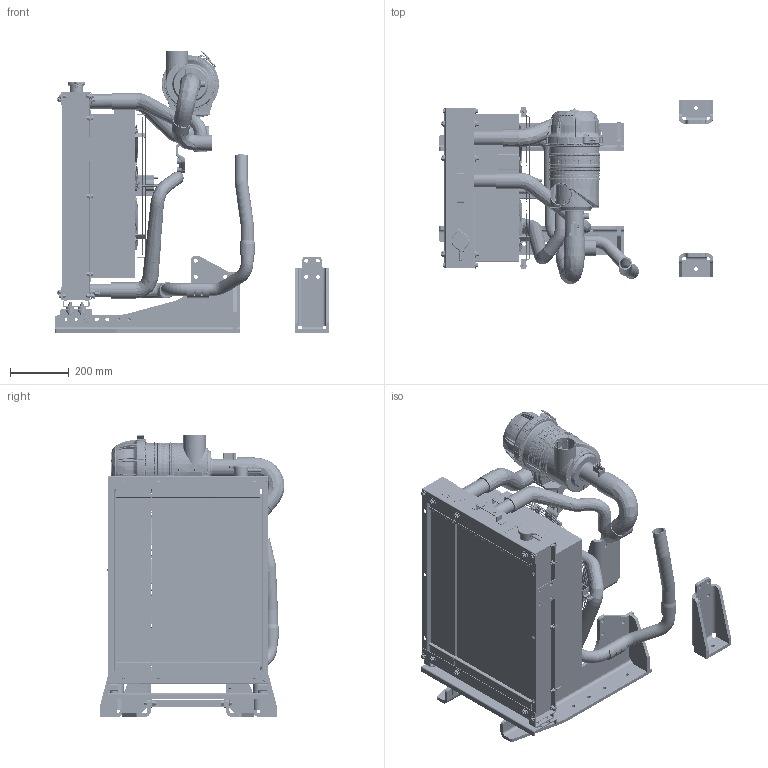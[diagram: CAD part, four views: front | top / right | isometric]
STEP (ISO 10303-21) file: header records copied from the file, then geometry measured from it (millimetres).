
FILE_DESCRIPTION(('CATIA V6 STEP'),'2;1');
FILE_NAME('C:\Users\i0213432\Desktop\STD 3D\D18\D18 Cooling pack 52degc + air filter.stp','2019-07-25T07:18:23+00:00',('none'),('none'),'3DEXPERIENCE Platform3DEXPERIENCE R2014x HotFix 24','3DEXPERIENCE Platform STEP AP203','none');
FILE_SCHEMA(('CONFIG_CONTROL_DESIGN'));
Products named in the file (3): 120106-00690 BOLT,HEX FLANGE 00; 110427-01290 BRACKET 00; 110427-01071 BRACKET,ENGINE MOUNTING 01
Assembly tree (30 placements, depth 1):
  120106-00690 BOLT,HEX FLANGE 00
Bounding box: 934 x 628.8 x 958.61 mm (x, y, z)
Volume: 33697826.4 mm3; surface area: 7929546.3 mm2
Topology: 195 solids, 196 shells, 19892 faces, 50977 edges, 31448 vertices
Faces by surface type: plane 5841, bspline 4866, cylinder 4405, torus 2720, cone 1515, sphere 521, revolution 19, extrusion 5
Entity records: 810597 total; most frequent: CARTESIAN_POINT 422118, ORIENTED_EDGE 100192, DIRECTION 53646, EDGE_CURVE 46792, VERTEX_POINT 29120, AXIS2_PLACEMENT_3D 26621, EDGE_LOOP 21248, ADVANCED_FACE 19663
